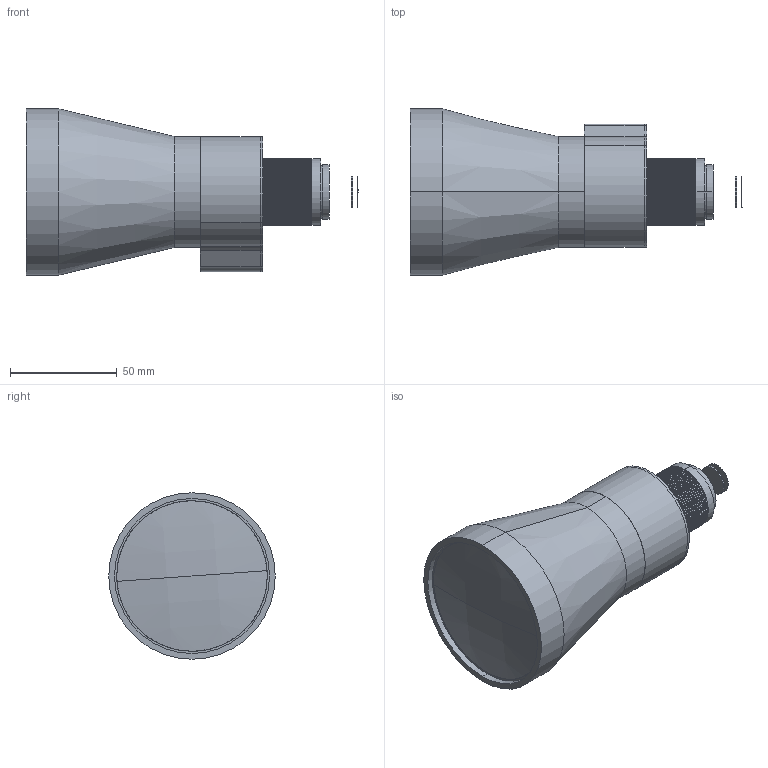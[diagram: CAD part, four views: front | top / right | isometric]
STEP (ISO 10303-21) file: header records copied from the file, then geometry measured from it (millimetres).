
FILE_DESCRIPTION (( 'STEP AP214' ), '1' );
FILE_NAME ('F50.STEP', '2023-12-08T13:29:53', ( '' ), ( '' ), 'SwSTEP 2.0', 'SolidWorks 2016', '' );
FILE_SCHEMA (( 'AUTOMOTIVE_DESIGN' ));
Length unit declared in the file: millimetre
Products named in the file (11): NONE_1; 翋噩芠; 萇儂欶裔; 萇儂俋欶; C諳; 覃蝴遠; NONE; 萇儂; 萇儂盓殤; g_pri_20round02-1500; F50
Assembly tree (9 placements, depth 3):
  NONE
  F50
    翋噩芠
    g_pri_20round02-1500
      NONE_1
    萇儂盓殤
    萇儂
    覃蝴遠
    C諳
    萇儂俋欶
    萇儂欶裔
Bounding box: 155.57 x 78 x 78 mm (x, y, z)
Volume: 200476.9 mm3; surface area: 109138.7 mm2
Topology: 19 solids, 19 shells, 684 faces, 1797 edges, 1186 vertices
Faces by surface type: cylinder 290, plane 290, bspline 84, cone 20
Entity records: 25604 total; most frequent: CARTESIAN_POINT 8079, ORIENTED_EDGE 3586, DIRECTION 3527, EDGE_CURVE 1793, AXIS2_PLACEMENT_3D 1239, VERTEX_POINT 1186, LINE 1049, VECTOR 1049
